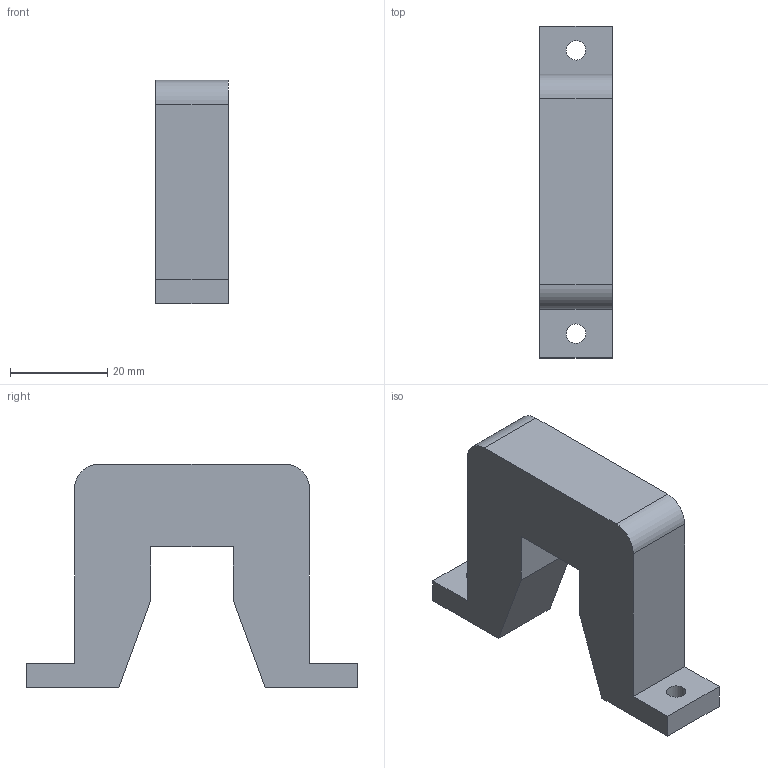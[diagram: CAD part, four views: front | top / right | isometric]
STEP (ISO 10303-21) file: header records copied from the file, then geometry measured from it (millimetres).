
FILE_DESCRIPTION(('CATIA V5 STEP Exchange'),'2;1');
FILE_NAME('C:\Users\user\Documents\Jakob\BAC - Arbeit 1\CAD Modell\CAD-Modell-Step files\rod mount\rod mount.stp','2018-12-13T14:05:03+00:00',('none'),('none'),'Version 5-6 Release 2012','CATIA V5 STEP AP203','none');
FILE_SCHEMA(('CONFIG_CONTROL_DESIGN'));
Length unit declared in the file: millimetre
Products named in the file (1): rod mount 1
Bounding box: 15 x 68.3 x 46 mm (x, y, z)
Volume: 24333.1 mm3; surface area: 8060.5 mm2
Topology: 1 solids, 1 shells, 28 faces, 76 edges, 52 vertices
Faces by surface type: plane 18, cylinder 10
Entity records: 887 total; most frequent: ORIENTED_EDGE 152, CARTESIAN_POINT 150, DIRECTION 118, EDGE_CURVE 76, VECTOR 56, LINE 56, VERTEX_POINT 52, AXIS2_PLACEMENT_3D 42
